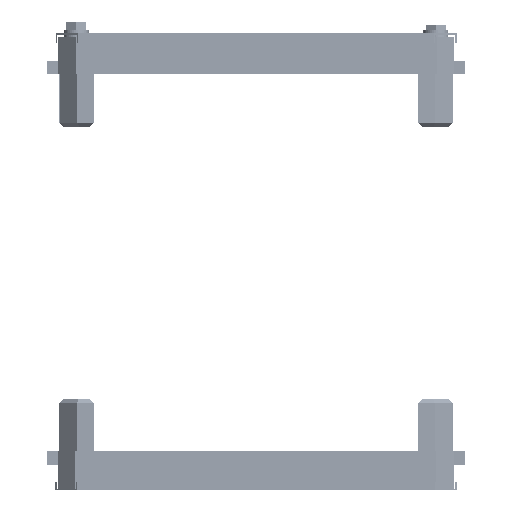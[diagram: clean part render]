
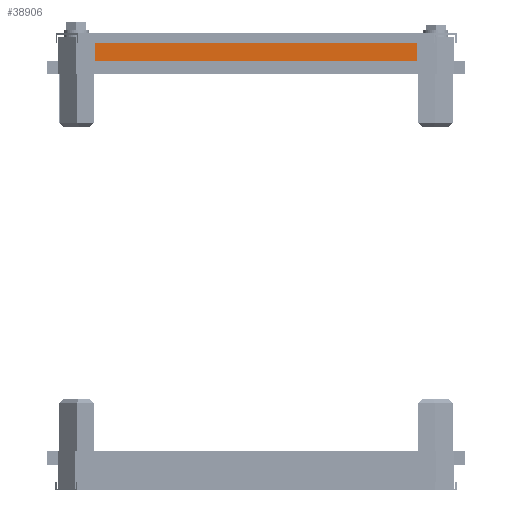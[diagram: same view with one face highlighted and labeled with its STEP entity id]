
A CAD part, left-side view. The second image highlights one B-rep face of the part: STEP entity #38906.
In plain terms, the highlighted planar face has unit normal (-1, 0, 0).
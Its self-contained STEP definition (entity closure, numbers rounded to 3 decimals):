
#2229 = CARTESIAN_POINT ( 'NONE',  ( -789.55, 162.4, 430.9 ) ) ;
#4810 = CARTESIAN_POINT ( 'NONE',  ( -789.55, -145.6, 408.4 ) ) ;
#8622 = CARTESIAN_POINT ( 'NONE',  ( -789.55, -145.6, 409.7 ) ) ;
#9977 = PLANE ( 'NONE',  #35204 ) ;
#13705 = VERTEX_POINT ( 'NONE', #4810 ) ;
#24917 = ORIENTED_EDGE ( 'NONE', *, *, #27906, .F. ) ;
#27906 = EDGE_CURVE ( 'NONE', #64194, #82410, #160673, .T. ) ;
#35204 = AXIS2_PLACEMENT_3D ( 'NONE', #74446, #63927, #49172 ) ;
#38906 = ADVANCED_FACE ( 'NONE', ( #103931 ), #9977, .F. ) ;
#46967 = LINE ( 'NONE', #8622, #161106 ) ;
#48113 = CARTESIAN_POINT ( 'NONE',  ( -789.55, 162.4, 409.7 ) ) ;
#49172 = DIRECTION ( 'NONE',  ( 0., -1., 0. ) ) ;
#51654 = EDGE_LOOP ( 'NONE', ( #134563, #24917, #146223, #157955 ) ) ;
#55328 = DIRECTION ( 'NONE',  ( 0., -1., 0. ) ) ;
#55840 = DIRECTION ( 'NONE',  ( 0., 1., 0. ) ) ;
#57565 = EDGE_CURVE ( 'NONE', #13705, #118014, #95864, .T. ) ;
#63927 = DIRECTION ( 'NONE',  ( 1., 0., 0. ) ) ;
#64194 = VERTEX_POINT ( 'NONE', #142502 ) ;
#67230 = EDGE_CURVE ( 'NONE', #118014, #64194, #140385, .T. ) ;
#74446 = CARTESIAN_POINT ( 'NONE',  ( -789.55, 162.4, 409.7 ) ) ;
#82410 = VERTEX_POINT ( 'NONE', #96512 ) ;
#87798 = VECTOR ( 'NONE', #55328, 1000. ) ;
#89536 = DIRECTION ( 'NONE',  ( 0., 0., 1. ) ) ;
#95864 = LINE ( 'NONE', #122829, #126597 ) ;
#96512 = CARTESIAN_POINT ( 'NONE',  ( -789.55, -145.6, 430.9 ) ) ;
#100603 = EDGE_CURVE ( 'NONE', #13705, #82410, #46967, .T. ) ;
#103931 = FACE_OUTER_BOUND ( 'NONE', #51654, .T. ) ;
#105484 = DIRECTION ( 'NONE',  ( 0., 0., 1. ) ) ;
#118014 = VERTEX_POINT ( 'NONE', #142393 ) ;
#122829 = CARTESIAN_POINT ( 'NONE',  ( -789.55, 162.4, 408.4 ) ) ;
#126597 = VECTOR ( 'NONE', #55840, 1000. ) ;
#134563 = ORIENTED_EDGE ( 'NONE', *, *, #100603, .T. ) ;
#140385 = LINE ( 'NONE', #48113, #156112 ) ;
#142393 = CARTESIAN_POINT ( 'NONE',  ( -789.55, 162.4, 408.4 ) ) ;
#142502 = CARTESIAN_POINT ( 'NONE',  ( -789.55, 162.4, 430.9 ) ) ;
#146223 = ORIENTED_EDGE ( 'NONE', *, *, #67230, .F. ) ;
#156112 = VECTOR ( 'NONE', #105484, 1000. ) ;
#157955 = ORIENTED_EDGE ( 'NONE', *, *, #57565, .F. ) ;
#160673 = LINE ( 'NONE', #2229, #87798 ) ;
#161106 = VECTOR ( 'NONE', #89536, 1000. ) ;
